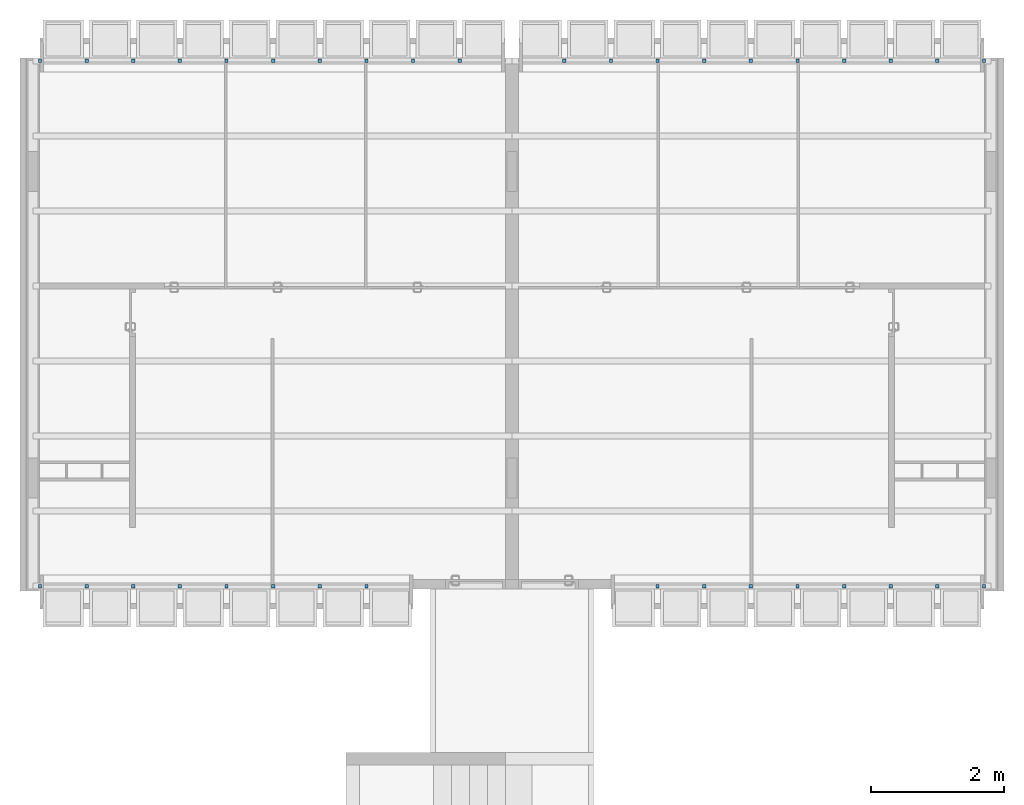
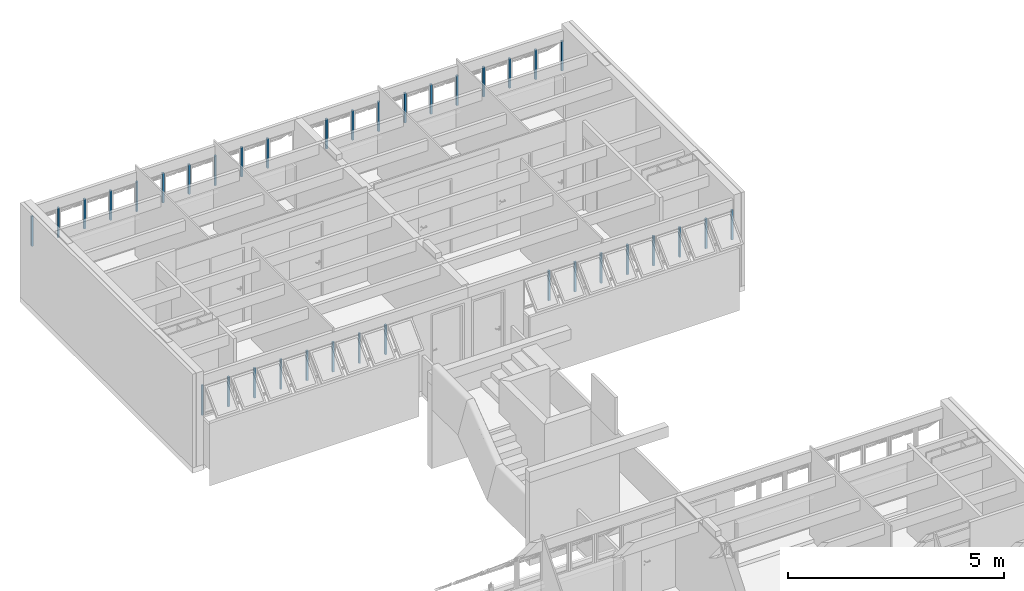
# One storey, part 3 of 38: 36 members, 4 elements without a shape of their own.
"""IFC2X3 building model written with IfcOpenShell, lengths in millimetres."""

import ifcopenshell
import ifcopenshell.guid

model = None  # the IFC model being written
_history = None  # IfcOwnerHistory: only IFC2X3 demands one
_inside = {}  # id of a spatial element -> (the spatial element, [elements in it])
_under = {}  # id of a project, library or spatial element -> (it, [spatial elements below it])
_declared = {}  # id of a project -> (the project, [libraries it declares])
_typed = {}  # id of a type object -> (the type object, [elements of that type])
_made_of = {}  # id of a material, layer set ... -> (it, [elements and type objects made of it])


def new_model(schema):
    """Start an empty IFC model of exactly this schema.

    Asked for "IFC4X3", IfcOpenShell would pick the latest addendum, in which some entities
    have other attributes; the version numbers below select the first issue.
    IFC2X3 requires an IfcOwnerHistory on every rooted entity: one is made here for all.
    """
    global model, _history
    if schema == "IFC4X3":
        model = ifcopenshell.file(schema_version=(4, 3, 0, 0))
    else:
        model = ifcopenshell.file(schema=schema)
    _inside.clear()
    _under.clear()
    _declared.clear()
    _typed.clear()
    _made_of.clear()
    _history = None
    if model.schema == "IFC2X3":
        org = make("IfcOrganization", Name="unknown")
        user = make(
            "IfcPersonAndOrganization",
            ThePerson=make("IfcPerson", FamilyName="unknown"),
            TheOrganization=org,
        )
        app = make(
            "IfcApplication",
            ApplicationDeveloper=org,
            Version="unknown",
            ApplicationFullName="unknown",
            ApplicationIdentifier="unknown",
        )
        _history = make(
            "IfcOwnerHistory",
            OwningUser=user,
            OwningApplication=app,
            ChangeAction="ADDED",
            CreationDate=0,
        )
    return model


def make(cls, **values):
    """One entity of the class cls with the attributes given. An attribute that is None is left unset."""
    return model.create_entity(
        cls, **{name: value for name, value in values.items() if value is not None}
    )


def entity(cls, *values):
    """Any entity or typed value of the class cls, its attributes in the order of the schema. None: left unset."""
    e = model.create_entity(cls)
    for i, value in enumerate(values):
        if value is not None:
            e[i] = value
    return e


def rooted(cls, **values):
    """An entity with a GlobalId (a new one), such as an element, a storey or a relation."""
    return make(cls, GlobalId=ifcopenshell.guid.new(), OwnerHistory=_history, **values)


def si_unit(unit_type, name, prefix=None):
    """IfcSIUnit, for example si_unit("LENGTHUNIT", "METRE", prefix="MILLI")."""
    return make("IfcSIUnit", UnitType=unit_type, Prefix=prefix, Name=name)


def converted_unit(unit_type, name, factor, base, dimensions=None, offset=None):
    """IfcConversionBasedUnit, such as the inch: factor (a typed value) times the base unit."""
    return make(
        "IfcConversionBasedUnit"
        if offset is None
        else "IfcConversionBasedUnitWithOffset",
        ConversionOffset=offset,
        Dimensions=None
        if dimensions is None
        else entity("IfcDimensionalExponents", *dimensions),
        UnitType=unit_type,
        Name=name,
        ConversionFactor=make(
            "IfcMeasureWithUnit", ValueComponent=factor, UnitComponent=base
        ),
    )


def derived_unit(unit_type, elements):
    """IfcDerivedUnit: a product of units, each with its exponent."""
    return make(
        "IfcDerivedUnit",
        Elements=[
            make("IfcDerivedUnitElement", Unit=unit, Exponent=power)
            for unit, power in elements
        ],
        UnitType=unit_type,
    )


def money_unit(currency):
    """IfcMonetaryUnit."""
    return make("IfcMonetaryUnit", Currency=currency)


def assignment(units):
    """IfcUnitAssignment: the units of a project."""
    return None if units is None else make("IfcUnitAssignment", Units=units)


def point(xyz):
    """IfcCartesianPoint."""
    return None if xyz is None else make("IfcCartesianPoint", Coordinates=xyz)


def direction(xyz):
    """IfcDirection."""
    return None if xyz is None else make("IfcDirection", DirectionRatios=xyz)


def frame(location, z_axis=None, x_axis=None):
    """IfcAxis2Placement3D, a coordinate frame: its origin and axes. An axis left out is left unset."""
    return make(
        "IfcAxis2Placement3D",
        Location=point(location),
        Axis=direction(z_axis),
        RefDirection=direction(x_axis),
    )


def origin_with_axes():
    """The frame at (0, 0, 0) with the z axis (0, 0, 1) and the x axis (1, 0, 0) written out."""
    return frame((0.0, 0.0, 0.0), z_axis=(0.0, 0.0, 1.0), x_axis=(1.0, 0.0, 0.0))


def place(relative_to, where):
    """IfcLocalPlacement: puts the frame where relative to a parent placement (None: the world)."""
    return make(
        "IfcLocalPlacement", PlacementRelTo=relative_to, RelativePlacement=where
    )


def context(
    kind, dimensions, precision=None, world=None, true_north=None, identifier=None
):
    """IfcGeometricRepresentationContext, for example the 3D "Model" context."""
    return make(
        "IfcGeometricRepresentationContext",
        ContextIdentifier=identifier,
        ContextType=kind,
        CoordinateSpaceDimension=dimensions,
        Precision=precision,
        WorldCoordinateSystem=world,
        TrueNorth=true_north,
    )


def subcontext(parent, identifier, kind, view, scale=None):
    """IfcGeometricRepresentationSubContext, for example "Body" below "Model"."""
    return make(
        "IfcGeometricRepresentationSubContext",
        ContextIdentifier=identifier,
        ContextType=kind,
        ParentContext=parent,
        TargetScale=scale,
        TargetView=view,
    )


def project(units=None, contexts=None):
    """IfcProject with its units and contexts."""
    return rooted(
        "IfcProject",
        Name="project",
        RepresentationContexts=contexts,
        UnitsInContext=assignment(units),
    )


def spatial(cls, under=None, at=None, **own):
    """A site, building, storey or space (cls), placed at a placement, below another one or the project."""
    s = rooted(cls, ObjectPlacement=at, **own)
    if under is not None:
        _under.setdefault(under.id(), (under, []))[1].append(s)
    return s


def polyline(points):
    """IfcPolyline through the points."""
    return make("IfcPolyline", Points=[point(p) for p in points])


def outline(outer, holes=None, kind="AREA"):
    """IfcArbitraryClosedProfileDef: a profile drawn as a closed curve; with holes, ...WithVoids."""
    if holes is None:
        return make("IfcArbitraryClosedProfileDef", ProfileType=kind, OuterCurve=outer)
    return make(
        "IfcArbitraryProfileDefWithVoids",
        ProfileType=kind,
        OuterCurve=outer,
        InnerCurves=holes,
    )


def extrude(swept, where, along, depth):
    """IfcExtrudedAreaSolid: the profile swept, set in the frame where, extruded along a direction by depth."""
    return make(
        "IfcExtrudedAreaSolid",
        SweptArea=swept,
        Position=where,
        ExtrudedDirection=direction(along),
        Depth=depth,
    )


def shape(context_of_items, identifier, shape_type, items):
    """IfcShapeRepresentation: the items that make up one representation, for example the "Body"."""
    return make(
        "IfcShapeRepresentation",
        ContextOfItems=context_of_items,
        RepresentationIdentifier=identifier,
        RepresentationType=shape_type,
        Items=items,
    )


def material(Name=None, Category=None):
    """IfcMaterial."""
    return make("IfcMaterial", Name=Name, Category=Category)


def made_of(thing, what):
    """Note that an element or type object is made of a material, layer set ...; save() writes the relation."""
    if what is not None:
        _made_of.setdefault(what.id(), (what, []))[1].append(thing)
    return thing


def type_object(cls, material=None, **own):
    """A type object (cls), such as IfcWallType, which elements share."""
    return made_of(rooted(cls, **own), material)


def element(
    cls,
    number,
    at=None,
    inside=None,
    cuts=None,
    type_object=None,
    material=None,
    context=None,
    identifier="Body",
    shape_type=None,
    held_by="IfcProductDefinitionShape",
    body=None,
    shapes=None,
    **own,
):
    """One element of the class cls, such as IfcWall. Its Tag is "e" and its number.

    at: its placement. inside: the storey or other place that contains it. cuts: it is an
    opening in that element (IfcRelVoidsElement). A single representation is given by context,
    identifier, shape_type and body (its items); several are given by shapes. held_by: the class
    of the entity that holds the representations. save() writes the other relations.
    """
    e = rooted(cls, Tag="e%d" % number, ObjectPlacement=at, **own)
    if body is not None:
        shapes = [shape(context, identifier, shape_type, body)]
    if shapes is not None:
        e.Representation = make(held_by, Representations=shapes)
    if inside is not None:
        _inside.setdefault(inside.id(), (inside, []))[1].append(e)
    if cuts is not None:
        rooted(
            "IfcRelVoidsElement", RelatingBuildingElement=cuts, RelatedOpeningElement=e
        )
    if type_object is not None:
        _typed.setdefault(type_object.id(), (type_object, []))[1].append(e)
    return made_of(e, material)


def aggregate(whole, parts):
    """IfcRelAggregates: a whole, such as a stair, and the parts it consists of."""
    return rooted("IfcRelAggregates", RelatingObject=whole, RelatedObjects=parts)


def save(model, path):
    """Write the relations noted so far, then the file.

    IfcRelAggregates (storeys below a building ...), IfcRelContainedInSpatialStructure (elements
    in a storey), IfcRelDefinesByType, IfcRelAssociatesMaterial and IfcRelDeclares: one each for
    every whole, place, type object, material and project.
    """
    for whole, parts in _under.values():
        aggregate(whole, parts)
    for where, things in _inside.values():
        rooted(
            "IfcRelContainedInSpatialStructure",
            RelatedElements=things,
            RelatingStructure=where,
        )
    for kind, things in _typed.values():
        rooted("IfcRelDefinesByType", RelatedObjects=things, RelatingType=kind)
    for what, things in _made_of.values():
        rooted("IfcRelAssociatesMaterial", RelatedObjects=things, RelatingMaterial=what)
    for by, libraries in _declared.values():
        rooted("IfcRelDeclares", RelatingContext=by, RelatedDefinitions=libraries)
    model.write(path)


model = new_model("IFC2X3")

# Units and contexts
model_context = context("Model", 3, precision=0.01, world=origin_with_axes(), true_north=direction((0.0, 1.0)))
body_context = subcontext(model_context, "Body", "Model", "MODEL_VIEW")
ifc_project = project(units=[si_unit("LENGTHUNIT", "METRE", prefix="MILLI"), si_unit("AREAUNIT", "SQUARE_METRE"), si_unit("VOLUMEUNIT", "CUBIC_METRE"), converted_unit("PLANEANGLEUNIT", "DEGREE", entity("IfcPlaneAngleMeasure", 0.0174532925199), si_unit("PLANEANGLEUNIT", "RADIAN"), dimensions=[0, 0, 0, 0, 0, 0, 0]), money_unit("USD"), converted_unit("TIMEUNIT", "Year", entity("IfcTimeMeasure", 31556926.0), si_unit("TIMEUNIT", "SECOND"), dimensions=[0, 0, 1, 0, 0, 0, 0]), si_unit("MASSUNIT", "GRAM", prefix="KILO"), si_unit("THERMODYNAMICTEMPERATUREUNIT", "DEGREE_CELSIUS"), si_unit("LUMINOUSINTENSITYUNIT", "LUMEN"), si_unit("ENERGYUNIT", "JOULE", prefix="MEGA"), derived_unit("THERMALCONDUCTANCEUNIT", [(si_unit("POWERUNIT", "WATT"), 1), (si_unit("LENGTHUNIT", "METRE"), -1), (si_unit("THERMODYNAMICTEMPERATUREUNIT", "KELVIN"), -1)]), derived_unit("SPECIFICHEATCAPACITYUNIT", [(si_unit("ENERGYUNIT", "JOULE"), 1), (si_unit("MASSUNIT", "GRAM", prefix="KILO"), -1), (si_unit("THERMODYNAMICTEMPERATUREUNIT", "KELVIN"), -1)]), derived_unit("MASSDENSITYUNIT", [(si_unit("MASSUNIT", "GRAM", prefix="KILO"), 1), (si_unit("VOLUMEUNIT", "CUBIC_METRE"), -1)])], contexts=[model_context])

# Site, building, storey
site_placement = place(None, origin_with_axes())
site = spatial("IfcSite", under=ifc_project, at=site_placement, Name="Local", CompositionType="ELEMENT")
building_placement = place(site_placement, origin_with_axes())
building = spatial("IfcBuilding", under=site, at=building_placement, Name="Construção", CompositionType="ELEMENT")
storey_placement = place(building_placement, frame((0.0, 0.0, 2650.0), z_axis=(0.0, 0.0, 1.0), x_axis=(1.0, 0.0, 0.0)))
storey = spatial("IfcBuildingStorey", under=building, at=storey_placement, Name="Segundo Pavimento", CompositionType="ELEMENT", Elevation=2650.0)

# Window, members
window_style = type_object("IfcWindowStyle", Name="Tipo de Parede Cortina", ConstructionType="NOTDEFINED", OperationType="NOTDEFINED", ParameterTakesPrecedence=False, Sizeable=False)
window_1_placement = place(storey_placement, frame((2750.0, 17910.0, 1355.00007107), z_axis=(0.0, 0.0, 1.0), x_axis=(1.0, 0.0, 0.0)))
window_1 = element("IfcWindow", 1, at=window_1_placement, inside=storey, type_object=window_style, Name="APTO7-JANELA-000")
ifc_material = material(Name="Alumínio")
member_type = type_object("IfcMemberType", Name="Montante 50 x 50", PredefinedType="MULLION")
member_1_placement = place(window_1_placement, frame((1050.0, 0.0, 0.0), z_axis=(0.0, 0.0, 1.0), x_axis=(-1.0, 0.0, 0.0)))
member_1 = element("IfcMember", 2, at=member_1_placement, type_object=member_type, material=ifc_material, Name="APTO7-PC-Est-Mnt-430", context=body_context, shape_type="SweptSolid", body=[
    extrude(outline(polyline([(-25.0, 50.0), (-25.0, 0.0), (25.0, 0.0), (25.0, 50.0), (-25.0, 50.0)])), frame((0.0, 0.0, 0.0), z_axis=(0.0, 0.0, 1.0), x_axis=(-1.0, 0.0, 0.0)), (0.0, 0.0, 1.0), 844.999891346),
])
member_2_placement = place(window_1_placement, frame((1750.0, 0.0, 0.0), z_axis=(0.0, 0.0, 1.0), x_axis=(-1.0, 0.0, 0.0)))
member_2 = element("IfcMember", 3, at=member_2_placement, type_object=member_type, material=ifc_material, Name="APTO7-PC-Est-Mnt-485", context=body_context, shape_type="SweptSolid", body=[
    extrude(outline(polyline([(-25.0, 50.0), (-25.0, 0.0), (25.0, 0.0), (25.0, 50.0), (-25.0, 50.0)])), frame((0.0, 0.0, 0.0), z_axis=(0.0, 0.0, 1.0), x_axis=(-1.0, 0.0, 0.0)), (0.0, 0.0, 1.0), 844.999891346),
])
member_3_placement = place(window_1_placement, frame((2450.0, 0.0, 0.0), z_axis=(0.0, 0.0, 1.0), x_axis=(-1.0, 0.0, 0.0)))
member_3 = element("IfcMember", 4, at=member_3_placement, type_object=member_type, material=ifc_material, Name="APTO7-PC-Est-Mnt-486", context=body_context, shape_type="SweptSolid", body=[
    extrude(outline(polyline([(-25.0, 50.0), (-25.0, 0.0), (25.0, 0.0), (25.0, 50.0), (-25.0, 50.0)])), frame((0.0, 0.0, 0.0), z_axis=(0.0, 0.0, 1.0), x_axis=(-1.0, 0.0, 0.0)), (0.0, 0.0, 1.0), 844.999891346),
])
member_4_placement = place(window_1_placement, frame((-350.0, 0.0, 0.0), z_axis=(0.0, 0.0, 1.0), x_axis=(-1.0, 0.0, 0.0)))
member_4 = element("IfcMember", 5, at=member_4_placement, type_object=member_type, material=ifc_material, Name="APTO7-PC-Est-Mnt-428", context=body_context, shape_type="SweptSolid", body=[
    extrude(outline(polyline([(-25.0, 50.0), (-25.0, 0.0), (25.0, 0.0), (25.0, 50.0), (-25.0, 50.0)])), frame((0.0, 0.0, 0.0), z_axis=(0.0, 0.0, 1.0), x_axis=(-1.0, 0.0, 0.0)), (0.0, 0.0, 1.0), 844.999891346),
])
member_5_placement = place(window_1_placement, frame((-2450.0, 0.0, 0.0), z_axis=(0.0, 0.0, 1.0), x_axis=(-1.0, 0.0, 0.0)))
member_5 = element("IfcMember", 6, at=member_5_placement, type_object=member_type, material=ifc_material, Name="APTO7-PC-Est-Mnt-560", context=body_context, shape_type="SweptSolid", body=[
    extrude(outline(polyline([(-25.0, 50.0), (-25.0, 0.0), (25.0, 0.0), (25.0, 50.0), (-25.0, 50.0)])), frame((0.0, 0.0, 0.0), z_axis=(0.0, 0.0, 1.0), x_axis=(-1.0, 0.0, 0.0)), (0.0, 0.0, 1.0), 844.999891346),
])
member_6_placement = place(window_1_placement, frame((350.0, 0.0, 0.0), z_axis=(0.0, 0.0, 1.0), x_axis=(-1.0, 0.0, 0.0)))
member_6 = element("IfcMember", 7, at=member_6_placement, type_object=member_type, material=ifc_material, Name="APTO7-PC-Est-Mnt-429", context=body_context, shape_type="SweptSolid", body=[
    extrude(outline(polyline([(-25.0, 50.0), (-25.0, 0.0), (25.0, 0.0), (25.0, 50.0), (-25.0, 50.0)])), frame((0.0, 0.0, 0.0), z_axis=(0.0, 0.0, 1.0), x_axis=(-1.0, 0.0, 0.0)), (0.0, 0.0, 1.0), 844.999891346),
])
member_7_placement = place(window_1_placement, frame((-1050.0, 0.0, 0.0), z_axis=(0.0, 0.0, 1.0), x_axis=(-1.0, 0.0, 0.0)))
member_7 = element("IfcMember", 8, at=member_7_placement, type_object=member_type, material=ifc_material, Name="APTO7-PC-Est-Mnt-427", context=body_context, shape_type="SweptSolid", body=[
    extrude(outline(polyline([(-25.0, 50.0), (-25.0, 0.0), (25.0, 0.0), (25.0, 50.0), (-25.0, 50.0)])), frame((0.0, 0.0, 0.0), z_axis=(0.0, 0.0, 1.0), x_axis=(-1.0, 0.0, 0.0)), (0.0, 0.0, 1.0), 844.999891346),
])
member_8_placement = place(window_1_placement, frame((-1750.0, 0.0, 0.0), z_axis=(0.0, 0.0, 1.0), x_axis=(-1.0, 0.0, 0.0)))
member_8 = element("IfcMember", 9, at=member_8_placement, type_object=member_type, material=ifc_material, Name="APTO7-PC-Est-Mnt-426", context=body_context, shape_type="SweptSolid", body=[
    extrude(outline(polyline([(-25.0, 50.0), (-25.0, 0.0), (25.0, 0.0), (25.0, 50.0), (-25.0, 50.0)])), frame((0.0, 0.0, 0.0), z_axis=(0.0, 0.0, 1.0), x_axis=(-1.0, 0.0, 0.0)), (0.0, 0.0, 1.0), 844.999891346),
])
aggregate(window_1, [member_1, member_2, member_3, member_4, member_5, member_6, member_7, member_8])

window_2_placement = place(storey_placement, frame((6250.0, 25844.9790225, 1355.02054151), z_axis=(0.0, 0.0, 1.0), x_axis=(1.0, 0.0, 0.0)))
window_2 = element("IfcWindow", 10, at=window_2_placement, inside=storey, type_object=window_style, Name="APTO7-JANELA-001")
member_9_placement = place(window_2_placement, frame((-2450.0, 0.0, 0.0), z_axis=(0.0, 0.0, 1.0), x_axis=(-1.0, 0.0, 0.0)))
member_9 = element("IfcMember", 11, at=member_9_placement, type_object=member_type, material=ifc_material, Name="APTO7-PC-Est-Mnt-430", context=body_context, shape_type="SweptSolid", body=[
    extrude(outline(polyline([(-25.0, -50.0), (25.0, -50.0), (25.0, 0.0), (-25.0, 0.0), (-25.0, -50.0)])), frame((0.0, 0.0, 0.0), z_axis=(0.0, 0.0, 1.0), x_axis=(-1.0, 0.0, 0.0)), (0.0, 0.0, 1.0), 844.999928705),
])
member_10_placement = place(window_2_placement, frame((-1750.0, 0.0, 0.0), z_axis=(0.0, 0.0, 1.0), x_axis=(-1.0, 0.0, 0.0)))
member_10 = element("IfcMember", 12, at=member_10_placement, type_object=member_type, material=ifc_material, Name="APTO7-PC-Est-Mnt-485", context=body_context, shape_type="SweptSolid", body=[
    extrude(outline(polyline([(-25.0, -50.0), (25.0, -50.0), (25.0, 0.0), (-25.0, 0.0), (-25.0, -50.0)])), frame((0.0, 0.0, 0.0), z_axis=(0.0, 0.0, 1.0), x_axis=(-1.0, 0.0, 0.0)), (0.0, 0.0, 1.0), 844.999928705),
])
member_11_placement = place(window_2_placement, frame((-1050.0, 0.0, 0.0), z_axis=(0.0, 0.0, 1.0), x_axis=(-1.0, 0.0, 0.0)))
member_11 = element("IfcMember", 13, at=member_11_placement, type_object=member_type, material=ifc_material, Name="APTO7-PC-Est-Mnt-486", context=body_context, shape_type="SweptSolid", body=[
    extrude(outline(polyline([(-25.0, -50.0), (25.0, -50.0), (25.0, 0.0), (-25.0, 0.0), (-25.0, -50.0)])), frame((0.0, 0.0, 0.0), z_axis=(0.0, 0.0, 1.0), x_axis=(-1.0, 0.0, 0.0)), (0.0, 0.0, 1.0), 844.999928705),
])
member_12_placement = place(window_2_placement, frame((-3850.0, 0.0, 0.0), z_axis=(0.0, 0.0, 1.0), x_axis=(-1.0, 0.0, 0.0)))
member_12 = element("IfcMember", 14, at=member_12_placement, type_object=member_type, material=ifc_material, Name="APTO7-PC-Est-Mnt-428", context=body_context, shape_type="SweptSolid", body=[
    extrude(outline(polyline([(-25.0, -50.0), (25.0, -50.0), (25.0, 0.0), (-25.0, 0.0), (-25.0, -50.0)])), frame((0.0, 0.0, 0.0), z_axis=(0.0, 0.0, 1.0), x_axis=(-1.0, 0.0, 0.0)), (0.0, 0.0, 1.0), 844.999928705),
])
member_13_placement = place(window_2_placement, frame((-350.0, 0.0, 0.0), z_axis=(0.0, 0.0, 1.0), x_axis=(-1.0, 0.0, 0.0)))
member_13 = element("IfcMember", 15, at=member_13_placement, type_object=member_type, material=ifc_material, Name="APTO7-PC-Est-Mnt-487", context=body_context, shape_type="SweptSolid", body=[
    extrude(outline(polyline([(-25.0, -50.0), (25.0, -50.0), (25.0, 0.0), (-25.0, 0.0), (-25.0, -50.0)])), frame((0.0, 0.0, 0.0), z_axis=(0.0, 0.0, 1.0), x_axis=(-1.0, 0.0, 0.0)), (0.0, 0.0, 1.0), 844.999928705),
])
member_14_placement = place(window_2_placement, frame((350.0, 0.0, 0.0), z_axis=(0.0, 0.0, 1.0), x_axis=(-1.0, 0.0, 0.0)))
member_14 = element("IfcMember", 16, at=member_14_placement, type_object=member_type, material=ifc_material, Name="APTO7-PC-Est-Mnt-488", context=body_context, shape_type="SweptSolid", body=[
    extrude(outline(polyline([(-25.0, -50.0), (25.0, -50.0), (25.0, 0.0), (-25.0, 0.0), (-25.0, -50.0)])), frame((0.0, 0.0, 0.0), z_axis=(0.0, 0.0, 1.0), x_axis=(-1.0, 0.0, 0.0)), (0.0, 0.0, 1.0), 844.999928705),
])
member_15_placement = place(window_2_placement, frame((-5950.0, 0.0, 0.0), z_axis=(0.0, 0.0, 1.0), x_axis=(-1.0, 0.0, 0.0)))
member_15 = element("IfcMember", 17, at=member_15_placement, type_object=member_type, material=ifc_material, Name="APTO7-PC-Est-Mnt-522", context=body_context, shape_type="SweptSolid", body=[
    extrude(outline(polyline([(-25.0, -50.0), (25.0, -50.0), (25.0, 0.0), (-25.0, 0.0), (-25.0, -50.0)])), frame((0.0, 0.0, 0.0), z_axis=(0.0, 0.0, 1.0), x_axis=(-1.0, 0.0, 0.0)), (0.0, 0.0, 1.0), 844.999928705),
])
member_16_placement = place(window_2_placement, frame((-3150.0, 0.0, 0.0), z_axis=(0.0, 0.0, 1.0), x_axis=(-1.0, 0.0, 0.0)))
member_16 = element("IfcMember", 18, at=member_16_placement, type_object=member_type, material=ifc_material, Name="APTO7-PC-Est-Mnt-429", context=body_context, shape_type="SweptSolid", body=[
    extrude(outline(polyline([(-25.0, -50.0), (25.0, -50.0), (25.0, 0.0), (-25.0, 0.0), (-25.0, -50.0)])), frame((0.0, 0.0, 0.0), z_axis=(0.0, 0.0, 1.0), x_axis=(-1.0, 0.0, 0.0)), (0.0, 0.0, 1.0), 844.999928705),
])
member_17_placement = place(window_2_placement, frame((-4550.0, 0.0, 0.0), z_axis=(0.0, 0.0, 1.0), x_axis=(-1.0, 0.0, 0.0)))
member_17 = element("IfcMember", 19, at=member_17_placement, type_object=member_type, material=ifc_material, Name="APTO7-PC-Est-Mnt-427", context=body_context, shape_type="SweptSolid", body=[
    extrude(outline(polyline([(-25.0, -50.0), (25.0, -50.0), (25.0, 0.0), (-25.0, 0.0), (-25.0, -50.0)])), frame((0.0, 0.0, 0.0), z_axis=(0.0, 0.0, 1.0), x_axis=(-1.0, 0.0, 0.0)), (0.0, 0.0, 1.0), 844.999928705),
])
member_18_placement = place(window_2_placement, frame((-5250.0, 0.0, 0.0), z_axis=(0.0, 0.0, 1.0), x_axis=(-1.0, 0.0, 0.0)))
member_18 = element("IfcMember", 20, at=member_18_placement, type_object=member_type, material=ifc_material, Name="APTO7-PC-Est-Mnt-426", context=body_context, shape_type="SweptSolid", body=[
    extrude(outline(polyline([(-25.0, -50.0), (25.0, -50.0), (25.0, 0.0), (-25.0, 0.0), (-25.0, -50.0)])), frame((0.0, 0.0, 0.0), z_axis=(0.0, 0.0, 1.0), x_axis=(-1.0, 0.0, 0.0)), (0.0, 0.0, 1.0), 844.999928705),
])
aggregate(window_2, [member_9, member_10, member_11, member_12, member_13, member_14, member_15, member_16, member_17, member_18])

window_3_placement = place(storey_placement, frame((12020.0, 17910.0, 1355.00007107), z_axis=(0.0, 0.0, 1.0), x_axis=(1.0, 0.0, 0.0)))
window_3 = element("IfcWindow", 21, at=window_3_placement, inside=storey, type_object=window_style, Name="APTO8-JANELA-000")
member_19_placement = place(window_3_placement, frame((-1050.0, 0.0, 0.0), z_axis=(0.0, 0.0, 1.0), x_axis=(1.0, 0.0, 0.0)))
member_19 = element("IfcMember", 22, at=member_19_placement, type_object=member_type, material=ifc_material, Name="APTO8-PC-Est-Mnt-430", context=body_context, shape_type="SweptSolid", body=[
    extrude(outline(polyline([(25.0, 50.0), (-25.0, 50.0), (-25.0, 0.0), (25.0, 0.0), (25.0, 50.0)])), origin_with_axes(), (0.0, 0.0, 1.0), 844.999928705),
])
member_20_placement = place(window_3_placement, frame((-1750.0, 0.0, 0.0), z_axis=(0.0, 0.0, 1.0), x_axis=(1.0, 0.0, 0.0)))
member_20 = element("IfcMember", 23, at=member_20_placement, type_object=member_type, material=ifc_material, Name="APTO8-PC-Est-Mnt-485", context=body_context, shape_type="SweptSolid", body=[
    extrude(outline(polyline([(25.0, 50.0), (-25.0, 50.0), (-25.0, 0.0), (25.0, 0.0), (25.0, 50.0)])), origin_with_axes(), (0.0, 0.0, 1.0), 844.999928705),
])
member_21_placement = place(window_3_placement, frame((-2450.0, 0.0, 0.0), z_axis=(0.0, 0.0, 1.0), x_axis=(1.0, 0.0, 0.0)))
member_21 = element("IfcMember", 24, at=member_21_placement, type_object=member_type, material=ifc_material, Name="APTO8-PC-Est-Mnt-486", context=body_context, shape_type="SweptSolid", body=[
    extrude(outline(polyline([(25.0, 50.0), (-25.0, 50.0), (-25.0, 0.0), (25.0, 0.0), (25.0, 50.0)])), origin_with_axes(), (0.0, 0.0, 1.0), 844.999928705),
])
member_22_placement = place(window_3_placement, frame((350.0, 0.0, 0.0), z_axis=(0.0, 0.0, 1.0), x_axis=(1.0, 0.0, 0.0)))
member_22 = element("IfcMember", 25, at=member_22_placement, type_object=member_type, material=ifc_material, Name="APTO8-PC-Est-Mnt-428", context=body_context, shape_type="SweptSolid", body=[
    extrude(outline(polyline([(25.0, 50.0), (-25.0, 50.0), (-25.0, 0.0), (25.0, 0.0), (25.0, 50.0)])), origin_with_axes(), (0.0, 0.0, 1.0), 844.999928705),
])
member_23_placement = place(window_3_placement, frame((2450.0, 0.0, 0.0), z_axis=(0.0, 0.0, 1.0), x_axis=(1.0, 0.0, 0.0)))
member_23 = element("IfcMember", 26, at=member_23_placement, type_object=member_type, material=ifc_material, Name="APTO8-PC-Est-Mnt-560", context=body_context, shape_type="SweptSolid", body=[
    extrude(outline(polyline([(25.0, 50.0), (-25.0, 50.0), (-25.0, 0.0), (25.0, 0.0), (25.0, 50.0)])), origin_with_axes(), (0.0, 0.0, 1.0), 844.999928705),
])
member_24_placement = place(window_3_placement, frame((-350.0, 0.0, 0.0), z_axis=(0.0, 0.0, 1.0), x_axis=(1.0, 0.0, 0.0)))
member_24 = element("IfcMember", 27, at=member_24_placement, type_object=member_type, material=ifc_material, Name="APTO8-PC-Est-Mnt-429", context=body_context, shape_type="SweptSolid", body=[
    extrude(outline(polyline([(25.0, 50.0), (-25.0, 50.0), (-25.0, 0.0), (25.0, 0.0), (25.0, 50.0)])), origin_with_axes(), (0.0, 0.0, 1.0), 844.999928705),
])
member_25_placement = place(window_3_placement, frame((1050.0, 0.0, 0.0), z_axis=(0.0, 0.0, 1.0), x_axis=(1.0, 0.0, 0.0)))
member_25 = element("IfcMember", 28, at=member_25_placement, type_object=member_type, material=ifc_material, Name="APTO8-PC-Est-Mnt-427", context=body_context, shape_type="SweptSolid", body=[
    extrude(outline(polyline([(25.0, 50.0), (-25.0, 50.0), (-25.0, 0.0), (25.0, 0.0), (25.0, 50.0)])), origin_with_axes(), (0.0, 0.0, 1.0), 844.999928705),
])
member_26_placement = place(window_3_placement, frame((1750.0, 0.0, 0.0), z_axis=(0.0, 0.0, 1.0), x_axis=(1.0, 0.0, 0.0)))
member_26 = element("IfcMember", 29, at=member_26_placement, type_object=member_type, material=ifc_material, Name="APTO8-PC-Est-Mnt-426", context=body_context, shape_type="SweptSolid", body=[
    extrude(outline(polyline([(25.0, 50.0), (-25.0, 50.0), (-25.0, 0.0), (25.0, 0.0), (25.0, 50.0)])), origin_with_axes(), (0.0, 0.0, 1.0), 844.999928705),
])
aggregate(window_3, [member_19, member_20, member_21, member_22, member_23, member_24, member_25, member_26])

window_4_placement = place(storey_placement, frame((8520.0, 25844.9790225, 1355.02054151), z_axis=(0.0, 0.0, 1.0), x_axis=(1.0, 0.0, 0.0)))
window_4 = element("IfcWindow", 30, at=window_4_placement, inside=storey, type_object=window_style, Name="APTO8-JANELA-001")
member_27_placement = place(window_4_placement, frame((2450.0, 0.0, 0.0), z_axis=(0.0, 0.0, 1.0), x_axis=(1.0, 0.0, 0.0)))
member_27 = element("IfcMember", 31, at=member_27_placement, type_object=member_type, material=ifc_material, Name="APTO8-PC-Est-Mnt-430", context=body_context, shape_type="SweptSolid", body=[
    extrude(outline(polyline([(25.0, -50.0), (25.0, 0.0), (-25.0, 0.0), (-25.0, -50.0), (25.0, -50.0)])), origin_with_axes(), (0.0, 0.0, 1.0), 844.999891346),
])
member_28_placement = place(window_4_placement, frame((1750.0, 0.0, 0.0), z_axis=(0.0, 0.0, 1.0), x_axis=(1.0, 0.0, 0.0)))
member_28 = element("IfcMember", 32, at=member_28_placement, type_object=member_type, material=ifc_material, Name="APTO8-PC-Est-Mnt-485", context=body_context, shape_type="SweptSolid", body=[
    extrude(outline(polyline([(25.0, -50.0), (25.0, 0.0), (-25.0, 0.0), (-25.0, -50.0), (25.0, -50.0)])), origin_with_axes(), (0.0, 0.0, 1.0), 844.999891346),
])
member_29_placement = place(window_4_placement, frame((1050.0, 0.0, 0.0), z_axis=(0.0, 0.0, 1.0), x_axis=(1.0, 0.0, 0.0)))
member_29 = element("IfcMember", 33, at=member_29_placement, type_object=member_type, material=ifc_material, Name="APTO8-PC-Est-Mnt-486", context=body_context, shape_type="SweptSolid", body=[
    extrude(outline(polyline([(25.0, -50.0), (25.0, 0.0), (-25.0, 0.0), (-25.0, -50.0), (25.0, -50.0)])), origin_with_axes(), (0.0, 0.0, 1.0), 844.999891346),
])
member_30_placement = place(window_4_placement, frame((3850.0, 0.0, 0.0), z_axis=(0.0, 0.0, 1.0), x_axis=(1.0, 0.0, 0.0)))
member_30 = element("IfcMember", 34, at=member_30_placement, type_object=member_type, material=ifc_material, Name="APTO8-PC-Est-Mnt-428", context=body_context, shape_type="SweptSolid", body=[
    extrude(outline(polyline([(25.0, -50.0), (25.0, 0.0), (-25.0, 0.0), (-25.0, -50.0), (25.0, -50.0)])), origin_with_axes(), (0.0, 0.0, 1.0), 844.999891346),
])
member_31_placement = place(window_4_placement, frame((350.0, 0.0, 0.0), z_axis=(0.0, 0.0, 1.0), x_axis=(1.0, 0.0, 0.0)))
member_31 = element("IfcMember", 35, at=member_31_placement, type_object=member_type, material=ifc_material, Name="APTO8-PC-Est-Mnt-487", context=body_context, shape_type="SweptSolid", body=[
    extrude(outline(polyline([(25.0, -50.0), (25.0, 0.0), (-25.0, 0.0), (-25.0, -50.0), (25.0, -50.0)])), origin_with_axes(), (0.0, 0.0, 1.0), 844.999891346),
])
member_32_placement = place(window_4_placement, frame((-350.0, 0.0, 0.0), z_axis=(0.0, 0.0, 1.0), x_axis=(1.0, 0.0, 0.0)))
member_32 = element("IfcMember", 36, at=member_32_placement, type_object=member_type, material=ifc_material, Name="APTO8-PC-Est-Mnt-488", context=body_context, shape_type="SweptSolid", body=[
    extrude(outline(polyline([(25.0, -50.0), (25.0, 0.0), (-25.0, 0.0), (-25.0, -50.0), (25.0, -50.0)])), origin_with_axes(), (0.0, 0.0, 1.0), 844.999891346),
])
member_33_placement = place(window_4_placement, frame((5950.0, 0.0, 0.0), z_axis=(0.0, 0.0, 1.0), x_axis=(1.0, 0.0, 0.0)))
member_33 = element("IfcMember", 37, at=member_33_placement, type_object=member_type, material=ifc_material, Name="APTO8-PC-Est-Mnt-522", context=body_context, shape_type="SweptSolid", body=[
    extrude(outline(polyline([(25.0, -50.0), (25.0, 0.0), (-25.0, 0.0), (-25.0, -50.0), (25.0, -50.0)])), origin_with_axes(), (0.0, 0.0, 1.0), 844.999891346),
])
member_34_placement = place(window_4_placement, frame((3150.0, 0.0, 0.0), z_axis=(0.0, 0.0, 1.0), x_axis=(1.0, 0.0, 0.0)))
member_34 = element("IfcMember", 38, at=member_34_placement, type_object=member_type, material=ifc_material, Name="APTO8-PC-Est-Mnt-429", context=body_context, shape_type="SweptSolid", body=[
    extrude(outline(polyline([(25.0, -50.0), (25.0, 0.0), (-25.0, 0.0), (-25.0, -50.0), (25.0, -50.0)])), origin_with_axes(), (0.0, 0.0, 1.0), 844.999891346),
])
member_35_placement = place(window_4_placement, frame((4550.0, 0.0, 0.0), z_axis=(0.0, 0.0, 1.0), x_axis=(1.0, 0.0, 0.0)))
member_35 = element("IfcMember", 39, at=member_35_placement, type_object=member_type, material=ifc_material, Name="APTO8-PC-Est-Mnt-427", context=body_context, shape_type="SweptSolid", body=[
    extrude(outline(polyline([(25.0, -50.0), (25.0, 0.0), (-25.0, 0.0), (-25.0, -50.0), (25.0, -50.0)])), origin_with_axes(), (0.0, 0.0, 1.0), 844.999891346),
])
member_36_placement = place(window_4_placement, frame((5250.0, 0.0, 0.0), z_axis=(0.0, 0.0, 1.0), x_axis=(1.0, 0.0, 0.0)))
member_36 = element("IfcMember", 40, at=member_36_placement, type_object=member_type, material=ifc_material, Name="APTO8-PC-Est-Mnt-426", context=body_context, shape_type="SweptSolid", body=[
    extrude(outline(polyline([(25.0, -50.0), (25.0, 0.0), (-25.0, 0.0), (-25.0, -50.0), (25.0, -50.0)])), origin_with_axes(), (0.0, 0.0, 1.0), 844.999891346),
])
aggregate(window_4, [member_27, member_28, member_29, member_30, member_31, member_32, member_33, member_34, member_35, member_36])

save(model, "model.ifc")
